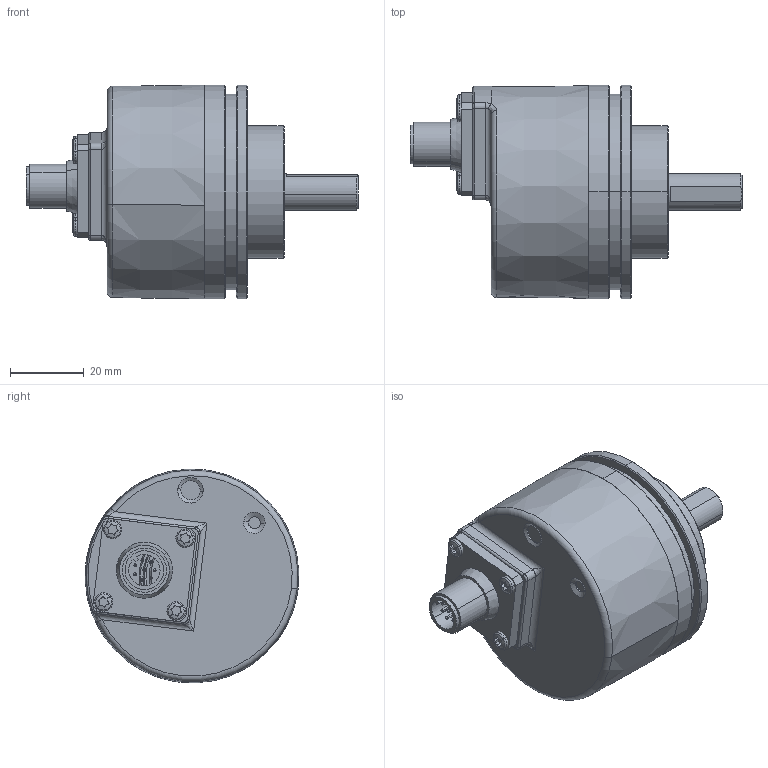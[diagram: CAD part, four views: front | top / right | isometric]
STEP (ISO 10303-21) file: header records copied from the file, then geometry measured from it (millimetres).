
FILE_DESCRIPTION (( 'STEP AP214' ), '1' );
FILE_NAME ('5814SIL.12X5.XXXX.STEP', '2010-07-22T06:32:57', ( 'admin' ), ( 'Fritz Kübler GmbH' ), 'SwSTEP 2.0', 'SolidWorks 2009', '' );
FILE_SCHEMA (( 'AUTOMOTIVE_DESIGN' ));
Length unit declared in the file: millimetre
Products named in the file (1): 5814SIL.12X5.XXXX
Bounding box: 90 x 58 x 58 mm (x, y, z)
Surface area: 19115 mm2 (no closed solid volume)
Topology: 0 solids, 17 shells, 246 faces, 627 edges, 392 vertices
Faces by surface type: plane 85, cylinder 72, cone 35, torus 24, sphere 24, bspline 6
Entity records: 10926 total; most frequent: CARTESIAN_POINT 2271, DIRECTION 1386, ORIENTED_EDGE 1100, EDGE_CURVE 593, AXIS2_PLACEMENT_3D 570, VERTEX_POINT 376, CIRCLE 329, EDGE_LOOP 277
